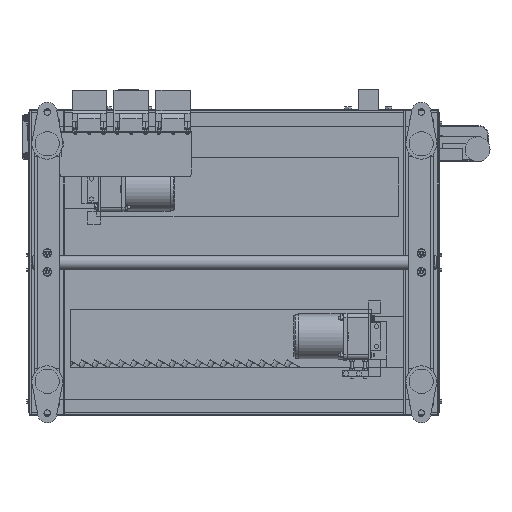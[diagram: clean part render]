
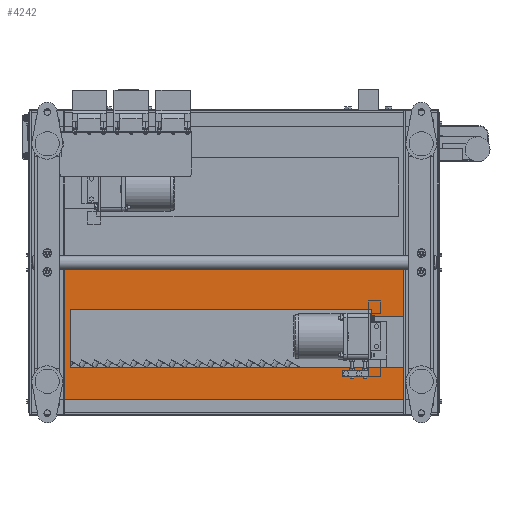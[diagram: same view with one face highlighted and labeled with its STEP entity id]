
A CAD part, front view. The second image highlights one B-rep face of the part: STEP entity #4242.
In plain terms, the highlighted planar face has unit normal (0, -1, 0).
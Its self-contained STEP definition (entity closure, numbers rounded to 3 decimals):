
#4242=ADVANCED_FACE('',(#15138,#15139),#15137,.F.);
#15137=PLANE('',#41183);
#15138=FACE_OUTER_BOUND('',#41184,.T.);
#15139=FACE_BOUND('',#41185,.T.);
#41180=CARTESIAN_POINT('',(817.,-93.,-307.));
#41181=DIRECTION('',(0.,1.,0.));
#41182=DIRECTION('',(-1.,0.,0.));
#41183=AXIS2_PLACEMENT_3D('',#41180,#41181,#41182);
#41184=EDGE_LOOP('',(#58366,#58367,#58368,#58369));
#41185=EDGE_LOOP('',(#58370,#58371,#58372,#58373,#58374,#58375));
#58366=ORIENTED_EDGE('',*,*,#71374,.T.);
#58367=ORIENTED_EDGE('',*,*,#71375,.F.);
#58368=ORIENTED_EDGE('',*,*,#71376,.F.);
#58369=ORIENTED_EDGE('',*,*,#71377,.T.);
#58370=ORIENTED_EDGE('',*,*,#71362,.T.);
#58371=ORIENTED_EDGE('',*,*,#71365,.T.);
#58372=ORIENTED_EDGE('',*,*,#71368,.T.);
#58373=ORIENTED_EDGE('',*,*,#71371,.T.);
#58374=ORIENTED_EDGE('',*,*,#71373,.T.);
#58375=ORIENTED_EDGE('',*,*,#71359,.T.);
#71359=EDGE_CURVE('',#91520,#91534,#91541,.T.);
#71362=EDGE_CURVE('',#91534,#91554,#91561,.T.);
#71365=EDGE_CURVE('',#91554,#91574,#91581,.T.);
#71368=EDGE_CURVE('',#91574,#91594,#91601,.T.);
#71371=EDGE_CURVE('',#91594,#91614,#91621,.T.);
#71373=EDGE_CURVE('',#91614,#91520,#91633,.T.);
#71374=EDGE_CURVE('',#91639,#91640,#91641,.T.);
#71375=EDGE_CURVE('',#91647,#91640,#91648,.T.);
#71376=EDGE_CURVE('',#91654,#91647,#91655,.T.);
#71377=EDGE_CURVE('',#91654,#91639,#91661,.T.);
#91520=VERTEX_POINT('',#136562);
#91534=VERTEX_POINT('',#136570);
#91541=LINE('',#136574,#136575);
#91554=VERTEX_POINT('',#136581);
#91561=LINE('',#136585,#136586);
#91574=VERTEX_POINT('',#136592);
#91581=LINE('',#136596,#136597);
#91594=VERTEX_POINT('',#136603);
#91601=LINE('',#136607,#136608);
#91614=VERTEX_POINT('',#136614);
#91621=LINE('',#136618,#136619);
#91633=LINE('',#136624,#136625);
#91639=VERTEX_POINT('',#136627);
#91640=VERTEX_POINT('',#136628);
#91641=LINE('',#136629,#136630);
#91647=VERTEX_POINT('',#136632);
#91648=LINE('',#136633,#136634);
#91654=VERTEX_POINT('',#136636);
#91655=LINE('',#136637,#136638);
#91661=LINE('',#136640,#136641);
#136562=CARTESIAN_POINT('',(80.,-93.,-92.));
#136570=CARTESIAN_POINT('',(677.,-93.,-92.));
#136574=CARTESIAN_POINT('',(80.,-93.,-92.));
#136575=VECTOR('',#136576,597.);
#136576=DIRECTION('',(1.,0.,0.));
#136581=CARTESIAN_POINT('',(677.,-93.,-107.));
#136585=CARTESIAN_POINT('',(677.,-93.,-92.));
#136586=VECTOR('',#136587,15.);
#136587=DIRECTION('',(0.,0.,-1.));
#136592=CARTESIAN_POINT('',(770.,-93.,-107.));
#136596=CARTESIAN_POINT('',(677.,-93.,-107.));
#136597=VECTOR('',#136598,93.);
#136598=DIRECTION('',(1.,0.,0.));
#136603=CARTESIAN_POINT('',(770.,-93.,-207.));
#136607=CARTESIAN_POINT('',(770.,-93.,-107.));
#136608=VECTOR('',#136609,100.);
#136609=DIRECTION('',(0.,0.,-1.));
#136614=CARTESIAN_POINT('',(80.,-93.,-207.));
#136618=CARTESIAN_POINT('',(770.,-93.,-207.));
#136619=VECTOR('',#136620,690.);
#136620=DIRECTION('',(-1.,0.,0.));
#136624=CARTESIAN_POINT('',(80.,-93.,-207.));
#136625=VECTOR('',#136626,115.);
#136626=DIRECTION('',(0.,0.,1.));
#136627=CARTESIAN_POINT('',(807.,-93.,-1.5));
#136628=CARTESIAN_POINT('',(3.,-93.,-1.5));
#136629=CARTESIAN_POINT('',(807.,-93.,-1.5));
#136630=VECTOR('',#136631,804.);
#136631=DIRECTION('',(-1.,0.,0.));
#136632=CARTESIAN_POINT('',(3.,-93.,-297.));
#136633=CARTESIAN_POINT('',(3.,-93.,-297.));
#136634=VECTOR('',#136635,295.5);
#136635=DIRECTION('',(0.,0.,1.));
#136636=CARTESIAN_POINT('',(807.,-93.,-297.));
#136637=CARTESIAN_POINT('',(807.,-93.,-297.));
#136638=VECTOR('',#136639,804.);
#136639=DIRECTION('',(-1.,0.,0.));
#136640=CARTESIAN_POINT('',(807.,-93.,-297.));
#136641=VECTOR('',#136642,295.5);
#136642=DIRECTION('',(0.,0.,1.));
